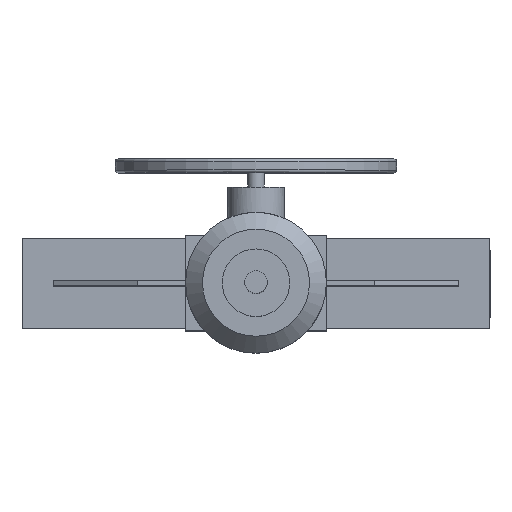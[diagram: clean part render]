
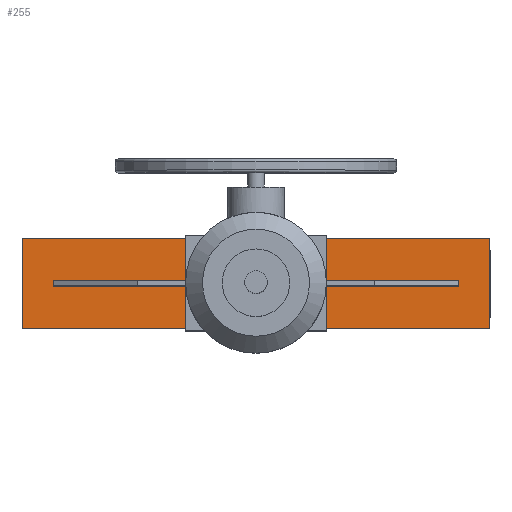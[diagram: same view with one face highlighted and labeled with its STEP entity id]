
A CAD part, top view. The second image highlights one B-rep face of the part: STEP entity #255.
In plain terms, the highlighted planar face has unit normal (0, 0, 1).
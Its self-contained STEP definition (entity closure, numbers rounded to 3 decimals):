
#255=ADVANCED_FACE('',(#2558,#2560),#2562,.T.);
#2558=FACE_BOUND('',#2559,.T.);
#2559=EDGE_LOOP('',(#4502,#4503,#4504,#4505,#4506,#4507,#4508,#4509));
#2560=FACE_BOUND('',#2561,.T.);
#2561=EDGE_LOOP('',(#4510,#4511,#4512,#4513));
#2562=PLANE('',#2563);
#2563=AXIS2_PLACEMENT_3D('',#2564,#2565,#2566);
#2564=CARTESIAN_POINT('',(0.,0.,650.));
#2565=DIRECTION('',(0.,0.,1.));
#2566=DIRECTION('',(1.,0.,0.));
#4502=ORIENTED_EDGE('',*,*,#5626,.F.);
#4503=ORIENTED_EDGE('',*,*,#5624,.T.);
#4504=ORIENTED_EDGE('',*,*,#5633,.T.);
#4505=ORIENTED_EDGE('',*,*,#5615,.T.);
#4506=ORIENTED_EDGE('',*,*,#5629,.F.);
#4507=ORIENTED_EDGE('',*,*,#5619,.T.);
#4508=ORIENTED_EDGE('',*,*,#5634,.T.);
#4509=ORIENTED_EDGE('',*,*,#5620,.T.);
#4510=ORIENTED_EDGE('',*,*,#5635,.F.);
#4511=ORIENTED_EDGE('',*,*,#5636,.F.);
#4512=ORIENTED_EDGE('',*,*,#5637,.F.);
#4513=ORIENTED_EDGE('',*,*,#5638,.F.);
#5615=EDGE_CURVE('',#6233,#6201,#6234,.T.);
#5619=EDGE_CURVE('',#6217,#6239,#6241,.T.);
#5620=EDGE_CURVE('',#6242,#6223,#6243,.T.);
#5624=EDGE_CURVE('',#6207,#6248,#6250,.T.);
#5626=EDGE_CURVE('',#6207,#6223,#6252,.T.);
#5629=EDGE_CURVE('',#6217,#6201,#6256,.T.);
#5633=EDGE_CURVE('',#6248,#6233,#6263,.T.);
#5634=EDGE_CURVE('',#6239,#6242,#6264,.T.);
#5635=EDGE_CURVE('',#6265,#6266,#6267,.T.);
#5636=EDGE_CURVE('',#6268,#6265,#6269,.F.);
#5637=EDGE_CURVE('',#6270,#6268,#6271,.T.);
#5638=EDGE_CURVE('',#6266,#6270,#6272,.T.);
#6201=VERTEX_POINT('',#7261);
#6207=VERTEX_POINT('',#7273);
#6217=VERTEX_POINT('',#7295);
#6223=VERTEX_POINT('',#7307);
#6233=VERTEX_POINT('',#7331);
#6234=LINE('',#7332,#7333);
#6239=VERTEX_POINT('',#7343);
#6241=LINE('',#7347,#7348);
#6242=VERTEX_POINT('',#7350);
#6243=LINE('',#7351,#7352);
#6248=VERTEX_POINT('',#7362);
#6250=LINE('',#7366,#7367);
#6252=LINE('',#7372,#7373);
#6256=LINE('',#7383,#7384);
#6263=LINE('',#7551,#7552);
#6264=LINE('',#7554,#7555);
#6265=VERTEX_POINT('',#7557);
#6266=VERTEX_POINT('',#7558);
#6267=LINE('',#7559,#7560);
#6268=VERTEX_POINT('',#7562);
#6269=LINE('',#7563,#7564);
#6270=VERTEX_POINT('',#7566);
#6271=LINE('',#7567,#7568);
#6272=LINE('',#7570,#7571);
#7261=CARTESIAN_POINT('',(125.,80.,650.));
#7273=CARTESIAN_POINT('',(125.,-80.,650.));
#7295=CARTESIAN_POINT('',(-125.,80.,650.));
#7307=CARTESIAN_POINT('',(-125.,-80.,650.));
#7331=CARTESIAN_POINT('',(415.,80.,650.));
#7332=CARTESIAN_POINT('',(415.,80.,650.));
#7333=VECTOR('',#7334,1.);
#7334=DIRECTION('',(-1.,0.,0.));
#7343=CARTESIAN_POINT('',(-415.,80.,650.));
#7347=CARTESIAN_POINT('',(-125.,80.,650.));
#7348=VECTOR('',#7349,1.);
#7349=DIRECTION('',(-1.,0.,0.));
#7350=CARTESIAN_POINT('',(-415.,-80.,650.));
#7351=CARTESIAN_POINT('',(-415.,-80.,650.));
#7352=VECTOR('',#7353,1.);
#7353=DIRECTION('',(1.,0.,0.));
#7362=CARTESIAN_POINT('',(415.,-80.,650.));
#7366=CARTESIAN_POINT('',(125.,-80.,650.));
#7367=VECTOR('',#7368,1.);
#7368=DIRECTION('',(1.,0.,0.));
#7372=CARTESIAN_POINT('',(125.,-80.,650.));
#7373=VECTOR('',#7374,1.);
#7374=DIRECTION('',(-1.,0.,0.));
#7383=CARTESIAN_POINT('',(-125.,80.,650.));
#7384=VECTOR('',#7385,1.);
#7385=DIRECTION('',(1.,0.,0.));
#7551=CARTESIAN_POINT('',(415.,-80.,650.));
#7552=VECTOR('',#7553,1.);
#7553=DIRECTION('',(0.,1.,0.));
#7554=CARTESIAN_POINT('',(-415.,80.,650.));
#7555=VECTOR('',#7556,1.);
#7556=DIRECTION('',(0.,-1.,0.));
#7557=CARTESIAN_POINT('',(-360.,5.,650.));
#7558=CARTESIAN_POINT('',(-360.,-5.,650.));
#7559=CARTESIAN_POINT('',(-360.,5.,650.));
#7560=VECTOR('',#7561,1.);
#7561=DIRECTION('',(0.,-1.,0.));
#7562=CARTESIAN_POINT('',(360.,5.,650.));
#7563=CARTESIAN_POINT('',(-360.,5.,650.));
#7564=VECTOR('',#7565,1.);
#7565=DIRECTION('',(1.,0.,0.));
#7566=CARTESIAN_POINT('',(360.,-5.,650.));
#7567=CARTESIAN_POINT('',(360.,-5.,650.));
#7568=VECTOR('',#7569,1.);
#7569=DIRECTION('',(0.,1.,0.));
#7570=CARTESIAN_POINT('',(-360.,-5.,650.));
#7571=VECTOR('',#7572,1.);
#7572=DIRECTION('',(1.,0.,0.));
